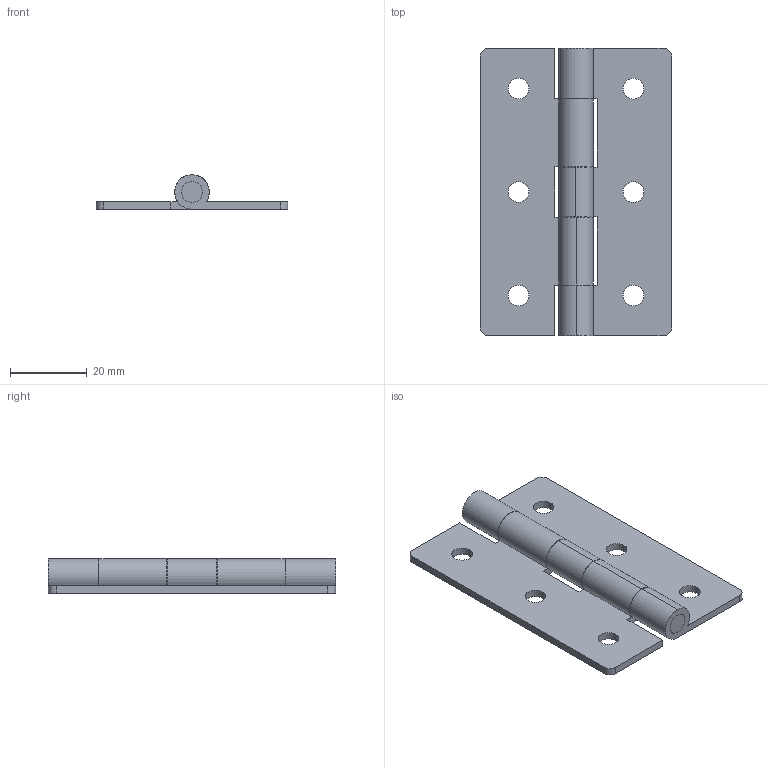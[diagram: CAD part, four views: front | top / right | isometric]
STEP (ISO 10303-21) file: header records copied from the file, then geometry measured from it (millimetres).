
FILE_DESCRIPTION (( 'STEP AP203' ), '1' );
FILE_NAME ('BS-5075-1.STEP', '2015-11-19T01:21:02', ( '' ), ( '' ), 'SwSTEP 2.0', 'SolidWorks 2014', '' );
FILE_SCHEMA (( 'CONFIG_CONTROL_DESIGN' ));
Length unit declared in the file: millimetre
Products named in the file (4): 母; 公; pin; BS-5075-1
Assembly tree (3 placements, depth 2):
  BS-5075-1
    公
    母
    pin
Bounding box: 50 x 75 x 9 mm (x, y, z)
Volume: 10738.7 mm3; surface area: 11776.3 mm2
Topology: 3 solids, 3 shells, 61 faces, 165 edges, 110 vertices
Faces by surface type: cylinder 36, plane 25
Entity records: 2409 total; most frequent: DIRECTION 371, CARTESIAN_POINT 342, ORIENTED_EDGE 330, EDGE_CURVE 165, AXIS2_PLACEMENT_3D 139, VERTEX_POINT 110, VECTOR 93, LINE 93
